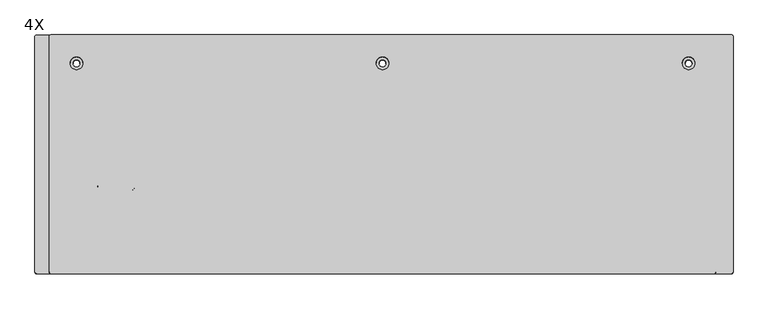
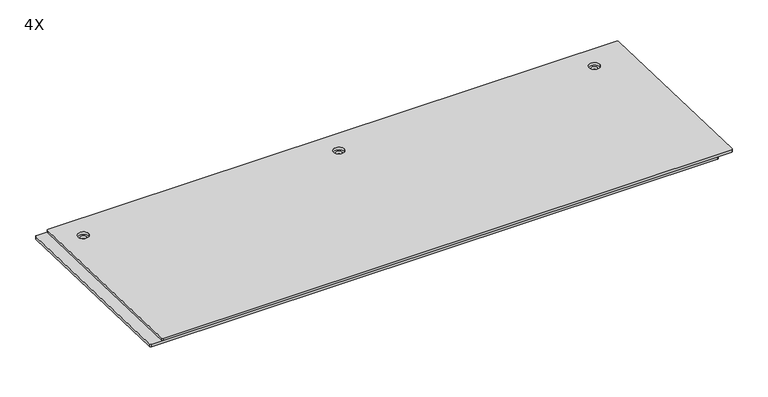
"""IFC4 building model written with IfcOpenShell, lengths in millimetres: proxy geometry, ML PhotonRoof Flat Anthracite Premium : 4X."""

from ifc_helpers import new_model, si_unit, point, frame, frame_2d, origin, place, context, project, spatial, polyline, circle_curve, trimmed, segment, composite_curve, outline, extrude, source, transform, mapped, element, save


def proxy_4x_a6b47b4e(model_context):
    return source(origin(), model_context, "Body", "SweptSolid", [
        extrude(outline(composite_curve([segment(trimmed(circle_curve(frame_2d((1138.0732143, -3.0)), 3.0), [point((1138.0732143, 0.0))], [point((1141.0732143, -3.0))], False, "CARTESIAN"), True, "CONTINUOUS"), segment(polyline([(1141.0732143, -3.0), (1141.0732143, -417.0)]), True, "CONTINUOUS"), segment(trimmed(circle_curve(frame_2d((1138.0732143, -417.0)), 3.0), [point((1141.0732143, -417.0))], [point((1138.0732143, -420.0))], False, "CARTESIAN"), True, "CONTINUOUS"), segment(polyline([(1138.0732143, -420.0), (-55.9267857, -420.0)]), True, "CONTINUOUS"), segment(trimmed(circle_curve(frame_2d((-55.9267857, -417.0)), 3.0), [point((-55.9267857, -420.0))], [point((-58.9267857, -417.0))], False, "CARTESIAN"), True, "CONTINUOUS"), segment(polyline([(-58.9267857, -417.0), (-58.9267857, -3.0)]), True, "CONTINUOUS"), segment(trimmed(circle_curve(frame_2d((-55.9267857, -3.0)), 3.0), [point((-58.9267857, -3.0))], [point((-55.9267857, 0.0))], False, "CARTESIAN"), True, "CONTINUOUS"), segment(polyline([(-55.9267857, 0.0), (1138.0732143, 0.0)]), True, "CONTINUOUS")], self_intersect=False), holes=[composite_curve([segment(trimmed(circle_curve(frame_2d((-10.9267857, -50.0)), 11.0), [point((-21.9267857, -50.0))], [point((0.0732143, -50.0))], True, "CARTESIAN"), True, "CONTINUOUS"), segment(trimmed(circle_curve(frame_2d((-10.9267857, -50.0)), 11.0), [point((0.0732143, -50.0))], [point((-21.9267857, -50.0))], True, "CARTESIAN"), True, "CONTINUOUS")], self_intersect=False), composite_curve([segment(trimmed(circle_curve(frame_2d((1063.0732143, -50.0)), 11.0), [point((1052.0732143, -50.0))], [point((1074.0732143, -50.0))], True, "CARTESIAN"), True, "CONTINUOUS"), segment(trimmed(circle_curve(frame_2d((1063.0732143, -50.0)), 11.0), [point((1074.0732143, -50.0))], [point((1052.0732143, -50.0))], True, "CARTESIAN"), True, "CONTINUOUS")], self_intersect=False), composite_curve([segment(trimmed(circle_curve(frame_2d((526.0732143, -50.0)), 11.0), [point((515.0732143, -50.0))], [point((537.0732143, -50.0))], True, "CARTESIAN"), True, "CONTINUOUS"), segment(trimmed(circle_curve(frame_2d((526.0732143, -50.0)), 11.0), [point((537.0732143, -50.0))], [point((515.0732143, -50.0))], True, "CARTESIAN"), True, "CONTINUOUS")], self_intersect=False)]), frame((-91.0732143, 50.1323897, 3.4268794), z_axis=(0.0, 0.031413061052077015, 0.9995064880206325), x_axis=(1.0, 0.0, 0.0)), (0.0, 0.0, 1.0), 5.0),
        extrude(outline(composite_curve([segment(trimmed(circle_curve(frame_2d((1227.0, -3.0)), 3.0), [point((1227.0, 0.0))], [point((1230.0, -3.0))], False, "CARTESIAN"), True, "CONTINUOUS"), segment(polyline([(1230.0, -3.0), (1230.0, -417.0)]), True, "CONTINUOUS"), segment(trimmed(circle_curve(frame_2d((1227.0, -417.0)), 3.0), [point((1230.0, -417.0))], [point((1227.0, -420.0))], False, "CARTESIAN"), True, "CONTINUOUS"), segment(polyline([(1227.0, -420.0), (38.0, -420.0)]), True, "CONTINUOUS"), segment(trimmed(circle_curve(frame_2d((38.0, -417.0)), 3.0), [point((38.0, -420.0))], [point((35.0, -417.0))], False, "CARTESIAN"), True, "CONTINUOUS"), segment(polyline([(35.0, -417.0), (35.0, -3.0)]), True, "CONTINUOUS"), segment(trimmed(circle_curve(frame_2d((38.0, -3.0)), 3.0), [point((35.0, -3.0))], [point((38.0, 0.0))], False, "CARTESIAN"), True, "CONTINUOUS"), segment(polyline([(38.0, 0.0), (1227.0, 0.0)]), True, "CONTINUOUS")], self_intersect=False), holes=[composite_curve([segment(trimmed(circle_curve(frame_2d((108.0, -50.0)), 6.0), [point((102.0, -50.0))], [point((114.0, -50.0))], True, "CARTESIAN"), True, "CONTINUOUS"), segment(trimmed(circle_curve(frame_2d((108.0, -50.0)), 6.0), [point((114.0, -50.0))], [point((102.0, -50.0))], True, "CARTESIAN"), True, "CONTINUOUS")], self_intersect=False), composite_curve([segment(trimmed(circle_curve(frame_2d((1182.0, -50.0)), 6.0), [point((1176.0, -50.0))], [point((1188.0, -50.0))], True, "CARTESIAN"), True, "CONTINUOUS"), segment(trimmed(circle_curve(frame_2d((1182.0, -50.0)), 6.0), [point((1188.0, -50.0))], [point((1176.0, -50.0))], True, "CARTESIAN"), True, "CONTINUOUS")], self_intersect=False), composite_curve([segment(trimmed(circle_curve(frame_2d((645.0, -50.0)), 6.0), [point((639.0, -50.0))], [point((651.0, -50.0))], True, "CARTESIAN"), True, "CONTINUOUS"), segment(trimmed(circle_curve(frame_2d((645.0, -50.0)), 6.0), [point((651.0, -50.0))], [point((639.0, -50.0))], True, "CARTESIAN"), True, "CONTINUOUS")], self_intersect=False)]), frame((-210.0, 49.9753244, -1.5706531), z_axis=(0.0, 0.031413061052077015, 0.9995064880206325), x_axis=(1.0, 0.0, 0.0)), (0.0, 0.0, 1.0), 5.0),
        extrude(outline(polyline([(44.977792, -1.4135877), (44.9149658, -3.4126007), (27.9233555, -2.8785787), (27.3579204, -20.8696955), (24.359401, -20.7754563), (24.9876622, -0.7853265), (44.977792, -1.4135877)])), frame((410.0, 0.0, 0.0), z_axis=(1.0, 0.0, 0.0), x_axis=(0.0, 1.0, 0.0)), (0.0, 0.0, 1.0), 50.0),
        extrude(outline(composite_curve([segment(polyline([(-9.0, -9.0), (-9.0, 39.0)]), True, "CONTINUOUS"), segment(trimmed(circle_curve(frame_2d((0.0, 39.0)), 9.0), [point((-9.0, 39.0))], [point((0.0, 48.0))], False, "CARTESIAN"), True, "CONTINUOUS"), segment(polyline([(0.0, 48.0), (48.0, 48.0)]), True, "CONTINUOUS"), segment(trimmed(circle_curve(frame_2d((48.0, 39.0)), 9.0), [point((48.0, 48.0))], [point((57.0, 39.0))], False, "CARTESIAN"), True, "CONTINUOUS"), segment(polyline([(57.0, 39.0), (57.0, -9.0)]), True, "CONTINUOUS"), segment(trimmed(circle_curve(frame_2d((48.0, -9.0)), 9.0), [point((57.0, -9.0))], [point((48.0, -18.0))], False, "CARTESIAN"), True, "CONTINUOUS"), segment(polyline([(48.0, -18.0), (0.0, -18.0)]), True, "CONTINUOUS"), segment(trimmed(circle_curve(frame_2d((0.0, -9.0)), 9.0), [point((0.0, -18.0))], [point((-9.0, -9.0))], False, "CARTESIAN"), True, "CONTINUOUS")], self_intersect=False)), frame((-17.0, -215.5221561, -13.2363216), z_axis=(0.0, 0.031413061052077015, 0.9995064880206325), x_axis=(0.0, 0.9995064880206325, -0.031413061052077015)), (0.0, 0.0, 1.0), 20.0),
        extrude(outline(polyline([(44.977792, -1.4135877), (44.9149658, -3.4126007), (27.9233555, -2.8785787), (27.3579204, -20.8696955), (24.359401, -20.7754563), (24.9876622, -0.7853265), (44.977792, -1.4135877)])), frame((902.0, 0.0, 0.0), z_axis=(1.0, 0.0, 0.0), x_axis=(0.0, 1.0, 0.0)), (0.0, 0.0, 1.0), 50.0),
        extrude(outline(polyline([(44.977792, -1.4135877), (44.9149658, -3.4126007), (27.9233555, -2.8785787), (27.3579204, -20.8696955), (24.359401, -20.7754563), (24.9876622, -0.7853265), (44.977792, -1.4135877)])), frame((-77.0, 0.0, 0.0), z_axis=(1.0, 0.0, 0.0), x_axis=(0.0, 1.0, 0.0)), (0.0, 0.0, 1.0), 50.0),
    ])


if __name__ == "__main__":
    model = new_model("IFC4")
    model_context = context("Model", 3, world=origin())
    ifc_project = project(units=[si_unit("LENGTHUNIT", "METRE", prefix="MILLI")], contexts=[model_context])
    site = spatial("IfcSite", under=ifc_project)
    building = spatial("IfcBuilding", under=site)
    placement = place(None, origin())
    proxy_4x_shape = proxy_4x_a6b47b4e(model_context)
    element("IfcBuildingElementProxy", 1, Name="ML PhotonRoof Flat Anthracite Premium : 4X", ObjectType="ML PhotonRoof Flat Anthracite Premium : 4X", at=placement, inside=building, context=model_context, shape_type="MappedRepresentation", body=[
        mapped(proxy_4x_shape, transform((0.0, 0.0, 0.0), x_axis=(1.0, 0.0, 0.0), y_axis=(0.0, 1.0, 0.0), z_axis=(0.0, 0.0, 1.0))),
    ])
    save(model, "model.ifc")
